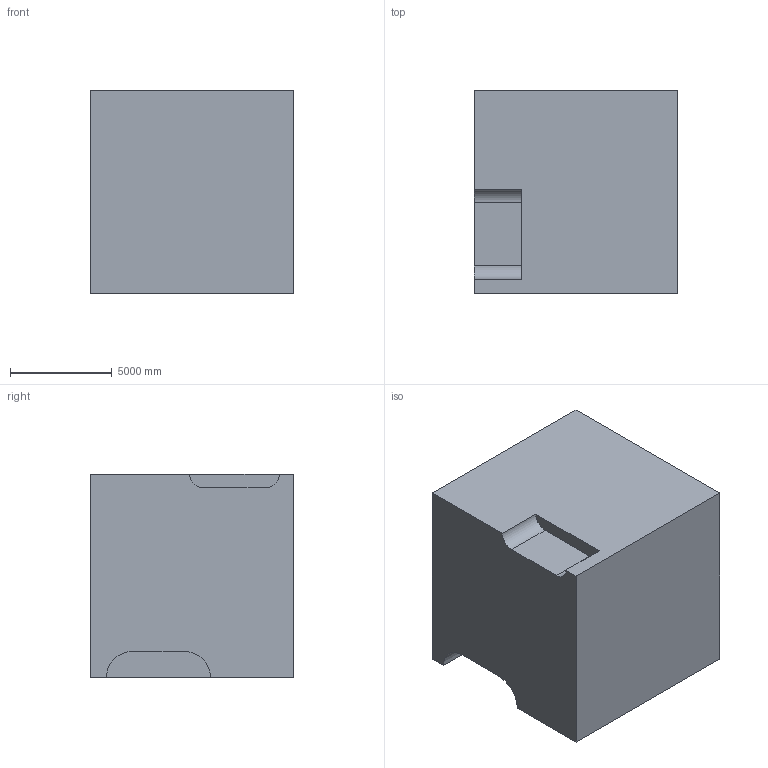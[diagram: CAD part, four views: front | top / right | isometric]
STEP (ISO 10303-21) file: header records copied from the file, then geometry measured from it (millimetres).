
FILE_DESCRIPTION (( 'STEP AP203' ), '1' );
FILE_NAME ('1161.STEP', '2022-08-18T13:00:06', ( 'user' ), ( '' ), 'SwSTEP 2.0', 'SolidWorks 2021', '' );
FILE_SCHEMA (( 'CONFIG_CONTROL_DESIGN' ));
Length unit declared in the file: centimetre
Products named in the file (1): 1161
Bounding box: 10000 x 10000 x 10000 mm (x, y, z)
Volume: 964012524457.8 mm3; surface area: 609151076.8 mm2
Topology: 1 solids, 1 shells, 14 faces, 36 edges, 24 vertices
Faces by surface type: plane 10, cylinder 4
Entity records: 505 total; most frequent: CARTESIAN_POINT 75, DIRECTION 74, ORIENTED_EDGE 72, EDGE_CURVE 36, VECTOR 28, LINE 28, VERTEX_POINT 24, AXIS2_PLACEMENT_3D 23
